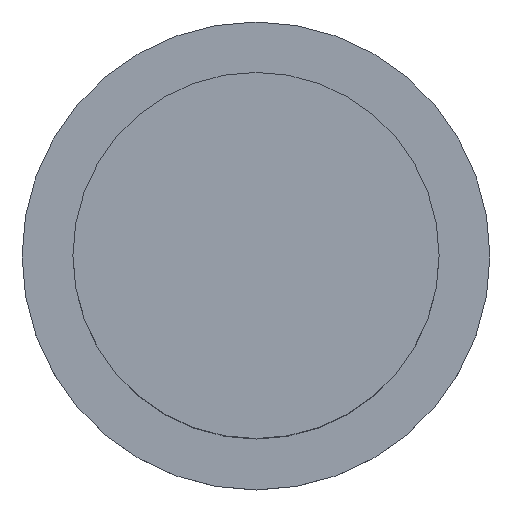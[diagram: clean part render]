
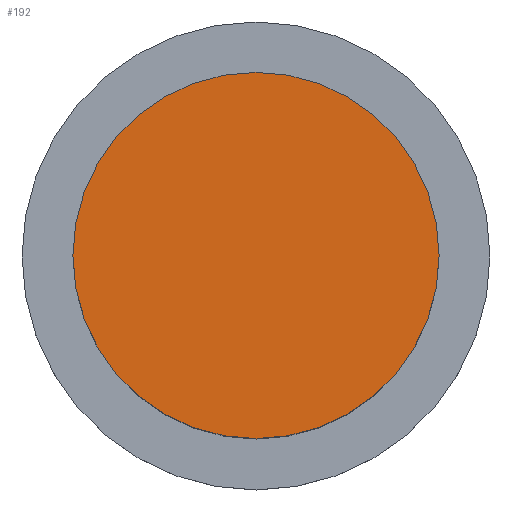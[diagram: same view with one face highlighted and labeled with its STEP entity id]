
A CAD part, top view. The second image highlights one B-rep face of the part: STEP entity #192.
In plain terms, the highlighted planar face has unit normal (0, 0, 1).
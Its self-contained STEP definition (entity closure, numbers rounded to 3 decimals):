
#192=ADVANCED_FACE($,(#198),#194,.T.);
#194=PLANE($,#219);
#198=FACE_OUTER_BOUND($,#202,.T.);
#202=EDGE_LOOP($,(#212));
#203=CIRCLE($,#216,2.286);
#205=VERTEX_POINT('',#234);
#207=EDGE_CURVE($,#205,#205,#203,.T.);
#212=ORIENTED_EDGE($,*,*,#207,.T.);
#216=AXIS2_PLACEMENT_3D($,#235,#224,#225);
#219=AXIS2_PLACEMENT_3D($,#239,#230,#231);
#224=DIRECTION('',(0.,0.,1.));
#225=DIRECTION('',(1.,0.,0.));
#230=DIRECTION('',(0.,0.,1.));
#231=DIRECTION('',(0.,1.,0.));
#234=CARTESIAN_POINT('',(-2.286,-1.27,3.81));
#235=CARTESIAN_POINT('',(0.0,-1.27,3.81));
#239=CARTESIAN_POINT('',(0.0,-1.27,3.81));
